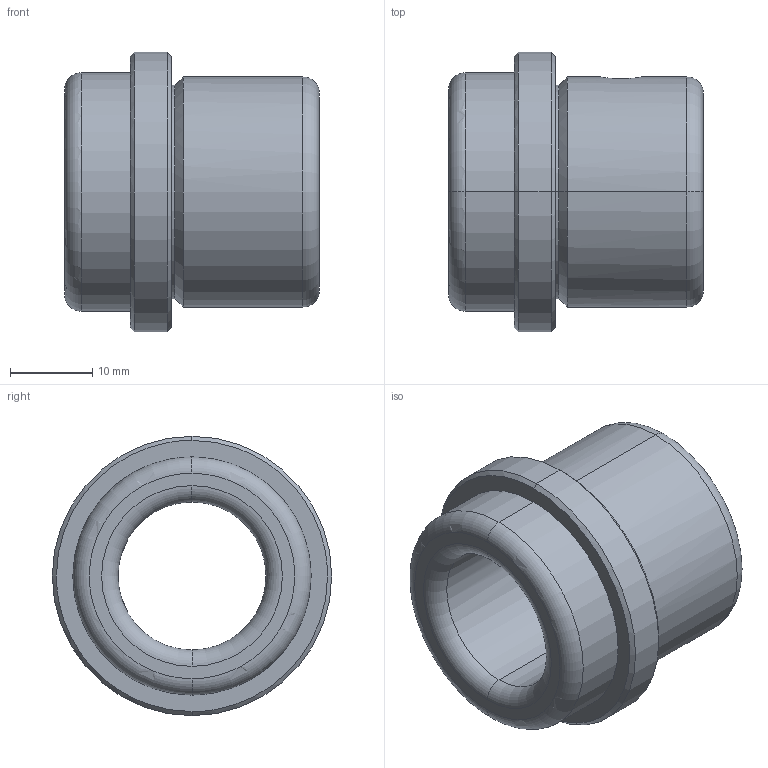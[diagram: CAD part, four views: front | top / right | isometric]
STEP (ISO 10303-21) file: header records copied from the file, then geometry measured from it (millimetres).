
FILE_DESCRIPTION(('CATIA V5 STEP Exchange'),'2;1');
FILE_NAME('C:\Users\Utente\Desktop\IO LAVORO\3D X SITO CF\X SITO\CF 631\CF 631 18 x 31.stp','2020-12-26T19:22:20+00:00',('none'),('none'),'CATIA Version 5 Release 20 GA (IN-10)','CATIA V5 STEP AP203','none');
FILE_SCHEMA(('CONFIG_CONTROL_DESIGN'));
Length unit declared in the file: millimetre
Products named in the file (1): CF 631 18 x 31
Bounding box: 31 x 34 x 34 mm (x, y, z)
Volume: 12396.6 mm3; surface area: 5866.9 mm2
Topology: 1 solids, 1 shells, 33 faces, 105 edges, 77 vertices
Faces by surface type: cylinder 12, torus 8, cone 8, plane 5
Entity records: 1425 total; most frequent: CARTESIAN_POINT 454, ORIENTED_EDGE 210, DIRECTION 156, EDGE_CURVE 105, AXIS2_PLACEMENT_3D 104, VERTEX_POINT 77, CIRCLE 70, EDGE_LOOP 40
